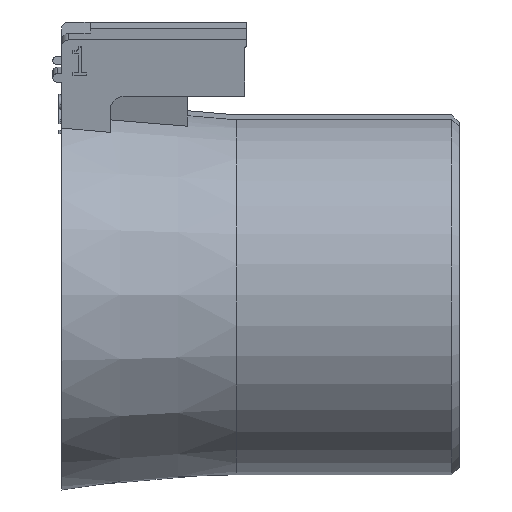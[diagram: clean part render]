
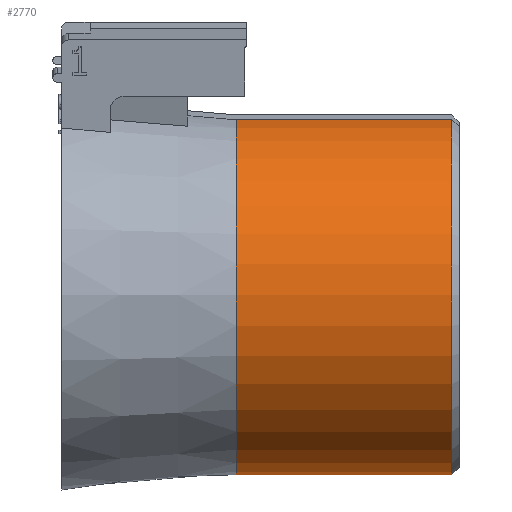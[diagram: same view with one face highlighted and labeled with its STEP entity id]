
A CAD part, front view. The second image highlights one B-rep face of the part: STEP entity #2770.
In plain terms, the highlighted cylindrical face has radius 12.5 mm (diameter 25 mm), a partial arc.
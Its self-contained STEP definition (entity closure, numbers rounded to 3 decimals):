
#49=CYLINDRICAL_SURFACE('',#2941,12.5);
#88=CIRCLE('',#2938,12.5);
#91=CIRCLE('',#2942,12.5);
#425=FACE_OUTER_BOUND('',#580,.T.);
#580=EDGE_LOOP('',(#2428,#2429,#2430,#2431));
#821=LINE('',#4672,#1080);
#846=LINE('',#4740,#1105);
#1080=VECTOR('',#3406,10.);
#1105=VECTOR('',#3453,10.);
#1416=VERTEX_POINT('',#4669);
#1417=VERTEX_POINT('',#4671);
#1437=VERTEX_POINT('',#4721);
#1442=VERTEX_POINT('',#4739);
#1762=EDGE_CURVE('',#1417,#1416,#821,.T.);
#1789=EDGE_CURVE('',#1437,#1416,#88,.T.);
#1795=EDGE_CURVE('',#1442,#1437,#846,.T.);
#1796=EDGE_CURVE('',#1417,#1442,#91,.T.);
#2428=ORIENTED_EDGE('',*,*,#1795,.F.);
#2429=ORIENTED_EDGE('',*,*,#1796,.F.);
#2430=ORIENTED_EDGE('',*,*,#1762,.T.);
#2431=ORIENTED_EDGE('',*,*,#1789,.F.);
#2770=ADVANCED_FACE('',(#425),#49,.T.);
#2938=AXIS2_PLACEMENT_3D('',#4726,#3443,#3444);
#2941=AXIS2_PLACEMENT_3D('',#4738,#3451,#3452);
#2942=AXIS2_PLACEMENT_3D('',#4741,#3454,#3455);
#3406=DIRECTION('',(-1.,0.,0.));
#3443=DIRECTION('center_axis',(-1.,0.,0.));
#3444=DIRECTION('ref_axis',(0.,-0.985,-0.174));
#3451=DIRECTION('center_axis',(-1.,0.,0.));
#3452=DIRECTION('ref_axis',(0.,-0.985,-0.174));
#3453=DIRECTION('',(-1.,0.,0.));
#3454=DIRECTION('center_axis',(1.,0.,0.));
#3455=DIRECTION('ref_axis',(0.,0.985,0.174));
#4669=CARTESIAN_POINT('',(11.43,-3.977,12.152));
#4671=CARTESIAN_POINT('',(26.5,-3.977,12.152));
#4672=CARTESIAN_POINT('',(19.215,-3.977,12.152));
#4721=CARTESIAN_POINT('',(11.43,0.184,-12.499));
#4726=CARTESIAN_POINT('Origin',(11.43,-1.806,-0.158));
#4738=CARTESIAN_POINT('Origin',(19.215,-1.806,-0.158));
#4739=CARTESIAN_POINT('',(26.5,0.184,-12.499));
#4740=CARTESIAN_POINT('',(19.215,0.184,-12.499));
#4741=CARTESIAN_POINT('Origin',(26.5,-1.806,-0.158));
